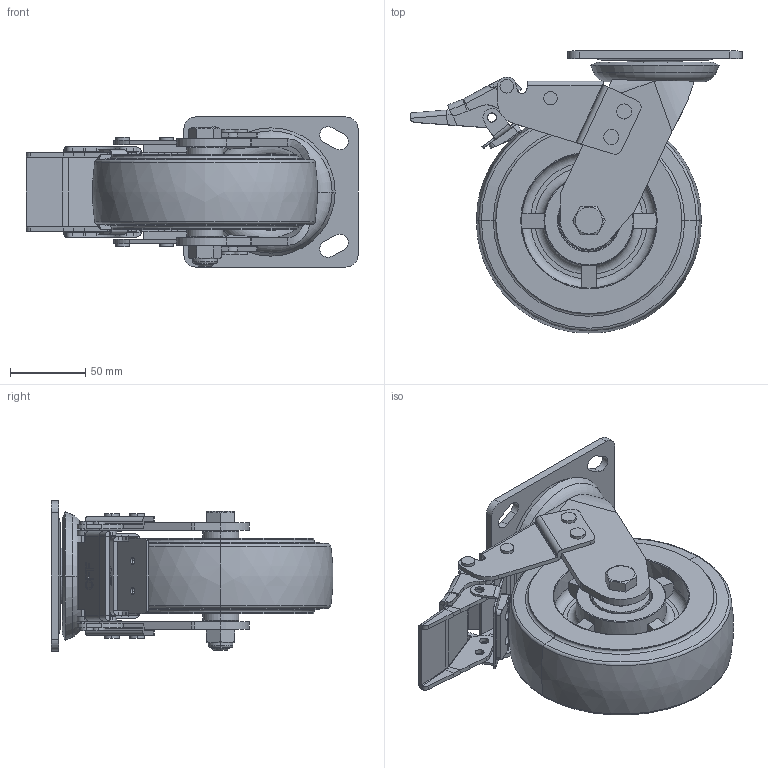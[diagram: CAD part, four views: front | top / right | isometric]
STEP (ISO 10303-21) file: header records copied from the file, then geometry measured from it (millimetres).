
FILE_DESCRIPTION((''),'2;1');
FILE_NAME('S75726L_ASM','2026-07-29T',('Lenovo'),(''),'PRO/ENGINEER BY PARAMETRIC TECHNOLOGY CORPORATION, 2010280','PRO/ENGINEER BY PARAMETRIC TECHNOLOGY CORPORATION, 2010280','');
FILE_SCHEMA(('CONFIG_CONTROL_DESIGN'));
Length unit declared in the file: millimetre
Products named in the file (16): S7506-355; S7570-201; S7500-211; 736-986; 6203; 700-67; 700-54; 736-86_ASM; 700-33; 700-34; C7416-525; 700-142; 700-141; C7436-401; 700-614; S75726L_ASM
Assembly tree (17 placements, depth 3):
  S75726L_ASM
    S7506-355
    S7570-201
    S7500-211
    736-86_ASM
      736-986
      6203  x2
      700-67  x2
      700-54
    700-33
    700-34
    C7416-525
    700-142
    700-141
    C7436-401
    700-614
Bounding box: 221.23 x 187.83 x 100 mm (x, y, z)
Volume: 915803.4 mm3; surface area: 230407.9 mm2
Topology: 43 solids, 43 shells, 946 faces, 2344 edges, 1426 vertices
Faces by surface type: plane 441, cylinder 273, torus 98, cone 48, sphere 48, bspline 38
Entity records: 28204 total; most frequent: CARTESIAN_POINT 6995, DIRECTION 4420, ORIENTED_EDGE 4280, EDGE_CURVE 2140, AXIS2_PLACEMENT_3D 1591, VERTEX_POINT 1352, VECTOR 1238, LINE 1238
